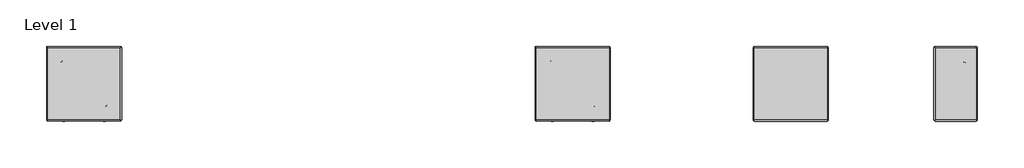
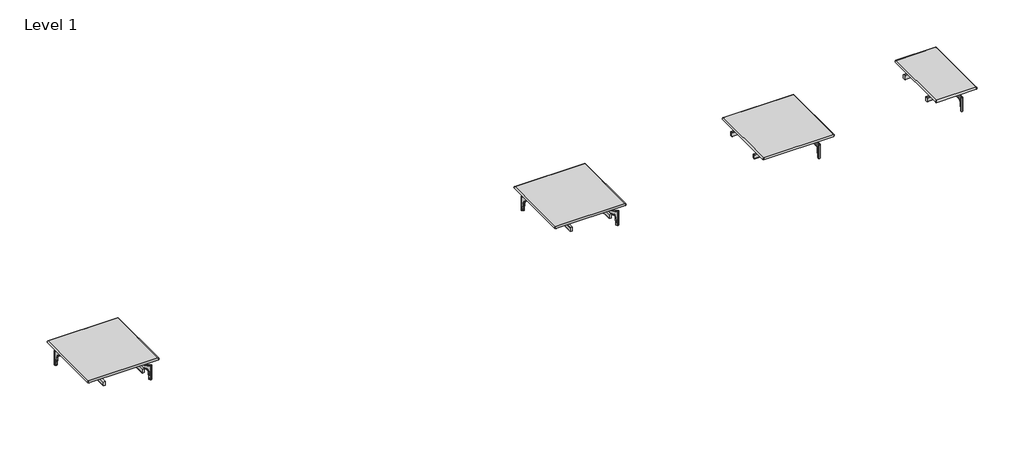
# One storey, incomplete: 4 furniture elements.
"""IFC4 building model written with IfcOpenShell, lengths in millimetres."""

from ifc_helpers import new_model, si_unit, origin, place, context, project, spatial, transform, mapped, element, save
from components import furniture_2_3_inline_table_7cb0f604, bench_corner_table_58ed4f08, bench_corner_table_5ebf23bb, full_inline_table_4e80720a

model = new_model("IFC4")

# Units and contexts
model_context = context("Model", 3, world=origin())
ifc_project = project(units=[si_unit("LENGTHUNIT", "METRE", prefix="MILLI")], contexts=[model_context])

# Site, building, storey
site = spatial("IfcSite", under=ifc_project)
building = spatial("IfcBuilding", under=site)
storey = spatial("IfcBuildingStorey", under=building, Name="Level 1", Elevation=0.0)

# Furniture
placement = place(None, origin())
furniture_2_3_inline_table_shape = furniture_2_3_inline_table_7cb0f604(model_context)
element("IfcFurniture", 1, ObjectType="Stylex - NYC - Table : 2/3 Inline Table", at=placement, inside=storey, context=model_context, shape_type="MappedRepresentation", body=[
    mapped(furniture_2_3_inline_table_shape, transform((-946.7033853, 5399.4538589, 0.0), x_axis=(1.0, 0.0, 0.0), y_axis=(0.0, 1.0, 0.0), z_axis=(0.0, 0.0, 1.0))),
])
bench_corner_table_shape = bench_corner_table_58ed4f08(model_context)
bench_corner_table_2_shape = bench_corner_table_5ebf23bb(model_context)
element("IfcFurniture", 2, ObjectType="Stylex - NYC - Table : Bench Corner Table", at=placement, inside=storey, context=model_context, shape_type="MappedRepresentation", body=[
    mapped(bench_corner_table_shape, transform((-11133.3542681, 5399.4538589, 0.0), x_axis=(-1.0, 0.0, 0.0), y_axis=(0.0, -1.0, 0.0), z_axis=(0.0, 0.0, 1.0))),
    mapped(bench_corner_table_2_shape, transform((-11133.3542681, 5399.4538589, 0.0), x_axis=(-1.0, 0.0, 0.0), y_axis=(0.0, -1.0, 0.0), z_axis=(0.0, 0.0, 1.0))),
])
element("IfcFurniture", 3, ObjectType="Stylex - NYC - Table : Corner Inline Table", at=placement, inside=storey, context=model_context, shape_type="MappedRepresentation", body=[
    mapped(bench_corner_table_shape, transform((-5423.367518, 5399.4538589, 0.0), x_axis=(-1.0, 0.0, 0.0), y_axis=(0.0, -1.0, 0.0), z_axis=(0.0, 0.0, 1.0))),
    mapped(bench_corner_table_2_shape, transform((-5423.367518, 5399.4538589, 0.0), x_axis=(-1.0, 0.0, 0.0), y_axis=(0.0, -1.0, 0.0), z_axis=(0.0, 0.0, 1.0))),
])
full_inline_table_shape = full_inline_table_4e80720a(model_context)
element("IfcFurniture", 4, ObjectType="Stylex - NYC - Table : Full Inline Table", at=placement, inside=storey, context=model_context, shape_type="MappedRepresentation", body=[
    mapped(full_inline_table_shape, transform((-2875.036557, 5399.4538589, 0.0), x_axis=(1.0, 0.0, 0.0), y_axis=(0.0, 1.0, 0.0), z_axis=(0.0, 0.0, 1.0))),
])

save(model, "model.ifc")
